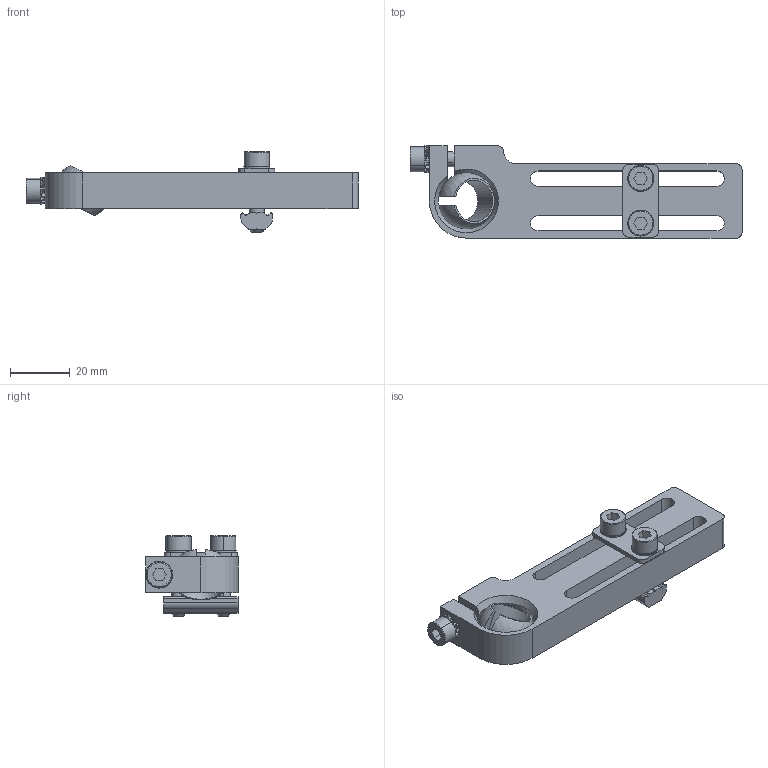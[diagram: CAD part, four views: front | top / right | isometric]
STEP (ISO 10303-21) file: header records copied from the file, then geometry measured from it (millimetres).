
FILE_DESCRIPTION(/* description */ (''),/* implementation_level */ '2;1');
FILE_NAME(/* name */ 'SMBE8-1450',/* time_stamp */ '2022-06-23T10:14:08+08:00',/* author */ (''),/* organization */ (''),/* preprocessor_version */ 'ST-DEVELOPER v9',/* originating_system */ 'UGS - NX 4.0',/* authorisation */ '');
FILE_SCHEMA (('AUTOMOTIVE_DESIGN { 1 0 10303 214 1 1 1 1 }'));
Length unit declared in the file: millimetre
Products named in the file (1): AdmiFF95wr3d
Bounding box: 111.5 x 31 x 27.1 mm (x, y, z)
Volume: 25148.5 mm3; surface area: 15967.4 mm2
Topology: 9 solids, 9 shells, 643 faces, 1812 edges, 1184 vertices
Faces by surface type: plane 556, cylinder 70, cone 9, torus 6, sphere 2
Full cylindrical faces by diameter (mm): 4.2 x1, 5.2 x1
Entity records: 25506 total; most frequent: CARTESIAN_POINT 3785, DIRECTION 3682, ORIENTED_EDGE 3608, EDGE_CURVE 1804, AXIS2_PLACEMENT_3D 1254, VERTEX_POINT 1181, LINE 1174, VECTOR 1174
